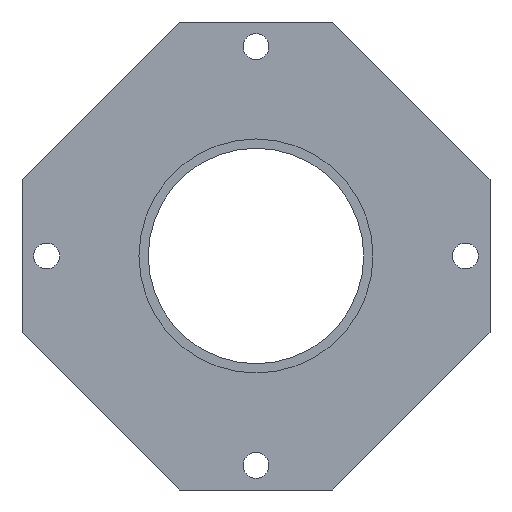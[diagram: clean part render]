
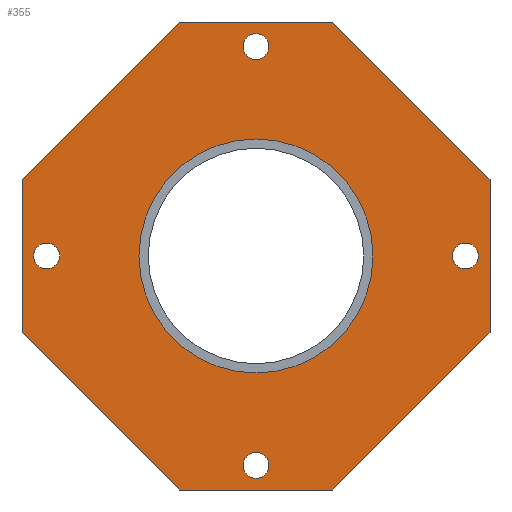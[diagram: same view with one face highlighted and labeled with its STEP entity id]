
A CAD part, front view. The second image highlights one B-rep face of the part: STEP entity #355.
In plain terms, the highlighted planar face has unit normal (0, -1, 0).
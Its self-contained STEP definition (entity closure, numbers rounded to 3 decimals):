
#44=FACE_BOUND('',#100,.T.);
#45=FACE_BOUND('',#101,.T.);
#46=FACE_BOUND('',#102,.T.);
#47=FACE_BOUND('',#103,.T.);
#48=FACE_BOUND('',#104,.T.);
#59=PLANE('',#407);
#76=FACE_OUTER_BOUND('',#99,.T.);
#99=EDGE_LOOP('',(#320,#321,#322,#323,#324,#325,#326,#327));
#100=EDGE_LOOP('',(#328));
#101=EDGE_LOOP('',(#329));
#102=EDGE_LOOP('',(#330));
#103=EDGE_LOOP('',(#331));
#104=EDGE_LOOP('',(#332));
#119=LINE('',#562,#149);
#122=LINE('',#567,#152);
#124=LINE('',#572,#154);
#127=LINE('',#576,#157);
#128=LINE('',#580,#158);
#131=LINE('',#584,#161);
#132=LINE('',#587,#162);
#134=LINE('',#590,#164);
#149=VECTOR('',#468,10.);
#152=VECTOR('',#473,10.);
#154=VECTOR('',#477,10.);
#157=VECTOR('',#482,10.);
#158=VECTOR('',#485,10.);
#161=VECTOR('',#490,10.);
#162=VECTOR('',#493,10.);
#164=VECTOR('',#497,10.);
#166=CIRCLE('',#381,19.);
#168=CIRCLE('',#385,2.1);
#170=CIRCLE('',#388,2.1);
#172=CIRCLE('',#391,2.1);
#174=CIRCLE('',#394,2.1);
#180=VERTEX_POINT('',#508);
#182=VERTEX_POINT('',#515);
#184=VERTEX_POINT('',#521);
#186=VERTEX_POINT('',#527);
#188=VERTEX_POINT('',#533);
#199=VERTEX_POINT('',#560);
#200=VERTEX_POINT('',#561);
#201=VERTEX_POINT('',#566);
#202=VERTEX_POINT('',#570);
#203=VERTEX_POINT('',#571);
#204=VERTEX_POINT('',#578);
#205=VERTEX_POINT('',#579);
#206=VERTEX_POINT('',#586);
#209=EDGE_CURVE('',#180,#180,#166,.T.);
#211=EDGE_CURVE('',#182,#182,#168,.T.);
#214=EDGE_CURVE('',#184,#184,#170,.T.);
#217=EDGE_CURVE('',#186,#186,#172,.T.);
#220=EDGE_CURVE('',#188,#188,#174,.T.);
#233=EDGE_CURVE('',#199,#200,#119,.T.);
#236=EDGE_CURVE('',#201,#199,#122,.T.);
#238=EDGE_CURVE('',#202,#203,#124,.T.);
#241=EDGE_CURVE('',#200,#202,#127,.T.);
#242=EDGE_CURVE('',#204,#205,#128,.T.);
#245=EDGE_CURVE('',#203,#204,#131,.T.);
#246=EDGE_CURVE('',#206,#201,#132,.T.);
#248=EDGE_CURVE('',#205,#206,#134,.T.);
#320=ORIENTED_EDGE('',*,*,#236,.F.);
#321=ORIENTED_EDGE('',*,*,#246,.F.);
#322=ORIENTED_EDGE('',*,*,#248,.F.);
#323=ORIENTED_EDGE('',*,*,#242,.F.);
#324=ORIENTED_EDGE('',*,*,#245,.F.);
#325=ORIENTED_EDGE('',*,*,#238,.F.);
#326=ORIENTED_EDGE('',*,*,#241,.F.);
#327=ORIENTED_EDGE('',*,*,#233,.F.);
#328=ORIENTED_EDGE('',*,*,#209,.T.);
#329=ORIENTED_EDGE('',*,*,#211,.T.);
#330=ORIENTED_EDGE('',*,*,#214,.T.);
#331=ORIENTED_EDGE('',*,*,#217,.T.);
#332=ORIENTED_EDGE('',*,*,#220,.T.);
#355=ADVANCED_FACE('',(#76,#44,#45,#46,#47,#48),#59,.F.);
#381=AXIS2_PLACEMENT_3D('',#510,#417,#418);
#385=AXIS2_PLACEMENT_3D('',#516,#425,#426);
#388=AXIS2_PLACEMENT_3D('',#522,#432,#433);
#391=AXIS2_PLACEMENT_3D('',#528,#439,#440);
#394=AXIS2_PLACEMENT_3D('',#534,#446,#447);
#407=AXIS2_PLACEMENT_3D('',#591,#498,#499);
#417=DIRECTION('center_axis',(0.,1.,0.));
#418=DIRECTION('ref_axis',(-1.,0.,0.));
#425=DIRECTION('center_axis',(0.,1.,0.));
#426=DIRECTION('ref_axis',(-1.,0.,0.));
#432=DIRECTION('center_axis',(0.,1.,0.));
#433=DIRECTION('ref_axis',(-1.,0.,0.));
#439=DIRECTION('center_axis',(0.,1.,0.));
#440=DIRECTION('ref_axis',(-1.,0.,0.));
#446=DIRECTION('center_axis',(0.,1.,0.));
#447=DIRECTION('ref_axis',(-1.,0.,0.));
#468=DIRECTION('',(-0.707,0.,-0.707));
#473=DIRECTION('',(0.,0.,-1.));
#477=DIRECTION('',(-0.707,0.,0.707));
#482=DIRECTION('',(-1.,0.,0.));
#485=DIRECTION('',(0.707,0.,0.707));
#490=DIRECTION('',(0.,0.,1.));
#493=DIRECTION('',(0.707,0.,-0.707));
#497=DIRECTION('',(1.,0.,0.));
#498=DIRECTION('center_axis',(0.,1.,0.));
#499=DIRECTION('ref_axis',(0.,0.,1.));
#508=CARTESIAN_POINT('',(19.,0.,0.));
#510=CARTESIAN_POINT('Origin',(0.,0.,0.));
#515=CARTESIAN_POINT('',(2.1,0.,-34.));
#516=CARTESIAN_POINT('Origin',(0.,0.,-34.));
#521=CARTESIAN_POINT('',(2.1,0.,34.));
#522=CARTESIAN_POINT('Origin',(0.,0.,34.));
#527=CARTESIAN_POINT('',(36.1,0.,0.));
#528=CARTESIAN_POINT('Origin',(34.,0.,0.));
#533=CARTESIAN_POINT('',(-31.9,0.,0.));
#534=CARTESIAN_POINT('Origin',(-34.,0.,0.));
#560=CARTESIAN_POINT('',(38.,0.,-12.5));
#561=CARTESIAN_POINT('',(12.5,0.,-38.));
#562=CARTESIAN_POINT('',(38.,0.,-12.5));
#566=CARTESIAN_POINT('',(38.,0.,12.5));
#567=CARTESIAN_POINT('',(38.,0.,12.5));
#570=CARTESIAN_POINT('',(-12.5,0.,-38.));
#571=CARTESIAN_POINT('',(-38.,0.,-12.5));
#572=CARTESIAN_POINT('',(-12.5,0.,-38.));
#576=CARTESIAN_POINT('',(12.5,0.,-38.));
#578=CARTESIAN_POINT('',(-38.,0.,12.5));
#579=CARTESIAN_POINT('',(-12.5,0.,38.));
#580=CARTESIAN_POINT('',(-38.,0.,12.5));
#584=CARTESIAN_POINT('',(-38.,0.,-12.5));
#586=CARTESIAN_POINT('',(12.5,0.,38.));
#587=CARTESIAN_POINT('',(12.5,0.,38.));
#590=CARTESIAN_POINT('',(-12.5,0.,38.));
#591=CARTESIAN_POINT('Origin',(0.,0.,14.776));
